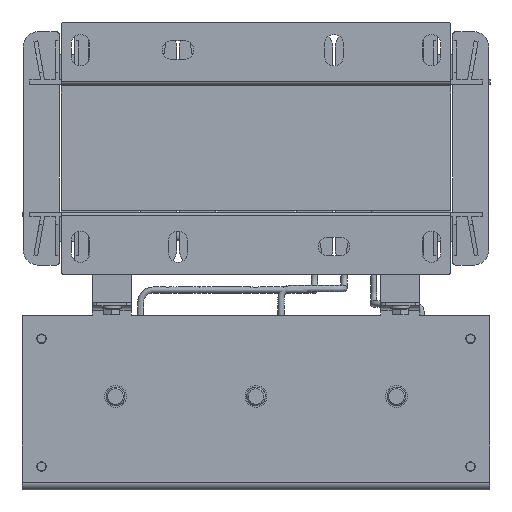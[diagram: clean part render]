
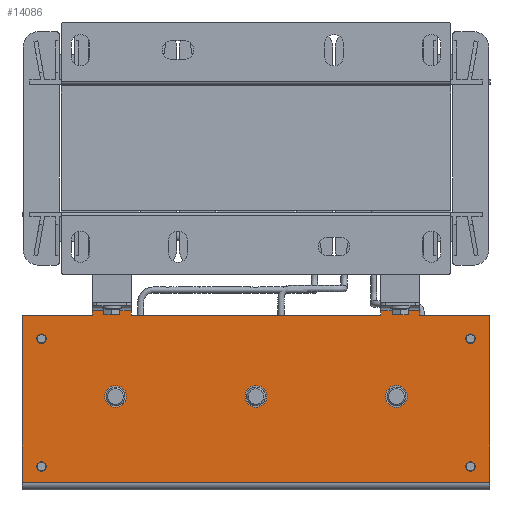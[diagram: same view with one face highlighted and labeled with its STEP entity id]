
A CAD part, front view. The second image highlights one B-rep face of the part: STEP entity #14086.
In plain terms, the highlighted planar face has unit normal (0, -1, 0).
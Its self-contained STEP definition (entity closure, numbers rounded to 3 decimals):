
#14086=ADVANCED_FACE('',(#28753,#28755,#28757,#28759,#28761,#28763,#28765,#28767),
#28769,.F.);
#28753=FACE_BOUND('',#28754,.T.);
#28754=EDGE_LOOP('',(#47410,#47411,#47412,#47413,#47414,#47415,#47416,#47417,#47418,
#47419,#47420,#47421));
#28755=FACE_BOUND('',#28756,.T.);
#28756=EDGE_LOOP('',(#47422));
#28757=FACE_BOUND('',#28758,.T.);
#28758=EDGE_LOOP('',(#47423));
#28759=FACE_BOUND('',#28760,.T.);
#28760=EDGE_LOOP('',(#47424));
#28761=FACE_BOUND('',#28762,.T.);
#28762=EDGE_LOOP('',(#47425));
#28763=FACE_BOUND('',#28764,.T.);
#28764=EDGE_LOOP('',(#47426));
#28765=FACE_BOUND('',#28766,.T.);
#28766=EDGE_LOOP('',(#47427));
#28767=FACE_BOUND('',#28768,.T.);
#28768=EDGE_LOOP('',(#47428));
#28769=PLANE('',#28770);
#28770=AXIS2_PLACEMENT_3D('',#28771,#28772,#28773);
#28771=CARTESIAN_POINT('',(-116.,-40.,150.));
#28772=DIRECTION('',(0.,1.,0.));
#28773=DIRECTION('',(0.,0.,1.));
#47410=ORIENTED_EDGE('',*,*,#54160,.T.);
#47411=ORIENTED_EDGE('',*,*,#54161,.T.);
#47412=ORIENTED_EDGE('',*,*,#54162,.T.);
#47413=ORIENTED_EDGE('',*,*,#54163,.F.);
#47414=ORIENTED_EDGE('',*,*,#54164,.T.);
#47415=ORIENTED_EDGE('',*,*,#54165,.T.);
#47416=ORIENTED_EDGE('',*,*,#54166,.T.);
#47417=ORIENTED_EDGE('',*,*,#54167,.F.);
#47418=ORIENTED_EDGE('',*,*,#54087,.T.);
#47419=ORIENTED_EDGE('',*,*,#54168,.T.);
#47420=ORIENTED_EDGE('',*,*,#54073,.F.);
#47421=ORIENTED_EDGE('',*,*,#54169,.F.);
#47422=ORIENTED_EDGE('',*,*,#54012,.T.);
#47423=ORIENTED_EDGE('',*,*,#54014,.T.);
#47424=ORIENTED_EDGE('',*,*,#54016,.T.);
#47425=ORIENTED_EDGE('',*,*,#54018,.T.);
#47426=ORIENTED_EDGE('',*,*,#54020,.T.);
#47427=ORIENTED_EDGE('',*,*,#54022,.T.);
#47428=ORIENTED_EDGE('',*,*,#54024,.T.);
#54012=EDGE_CURVE('',#60122,#60122,#60123,.T.);
#54014=EDGE_CURVE('',#60126,#60126,#60127,.T.);
#54016=EDGE_CURVE('',#60130,#60130,#60131,.T.);
#54018=EDGE_CURVE('',#60134,#60134,#60135,.T.);
#54020=EDGE_CURVE('',#60138,#60138,#60139,.T.);
#54022=EDGE_CURVE('',#60142,#60142,#60143,.T.);
#54024=EDGE_CURVE('',#60146,#60146,#60147,.T.);
#54073=EDGE_CURVE('',#60238,#60239,#60240,.T.);
#54087=EDGE_CURVE('',#60267,#60265,#60268,.T.);
#54160=EDGE_CURVE('',#60395,#60396,#60397,.T.);
#54161=EDGE_CURVE('',#60396,#60398,#60399,.T.);
#54162=EDGE_CURVE('',#60398,#60400,#60401,.T.);
#54163=EDGE_CURVE('',#60402,#60400,#60403,.T.);
#54164=EDGE_CURVE('',#60402,#60404,#60405,.T.);
#54165=EDGE_CURVE('',#60404,#60406,#60407,.T.);
#54166=EDGE_CURVE('',#60406,#60408,#60409,.T.);
#54167=EDGE_CURVE('',#60267,#60408,#60410,.T.);
#54168=EDGE_CURVE('',#60265,#60239,#60411,.T.);
#54169=EDGE_CURVE('',#60395,#60238,#60412,.T.);
#60122=VERTEX_POINT('',#73854);
#60123=CIRCLE('',#73855,3.);
#60126=VERTEX_POINT('',#73864);
#60127=CIRCLE('',#73865,3.);
#60130=VERTEX_POINT('',#73874);
#60131=CIRCLE('',#73875,3.);
#60134=VERTEX_POINT('',#73884);
#60135=CIRCLE('',#73885,3.);
#60138=VERTEX_POINT('',#73894);
#60139=CIRCLE('',#73895,7.);
#60142=VERTEX_POINT('',#73904);
#60143=CIRCLE('',#73905,7.);
#60146=VERTEX_POINT('',#73914);
#60147=CIRCLE('',#73915,7.);
#60238=VERTEX_POINT('',#74125);
#60239=VERTEX_POINT('',#74126);
#60240=LINE('',#74127,#74128);
#60265=VERTEX_POINT('',#74182);
#60267=VERTEX_POINT('',#74187);
#60268=LINE('',#74188,#74189);
#60395=VERTEX_POINT('',#74477);
#60396=VERTEX_POINT('',#74478);
#60397=LINE('',#74479,#74480);
#60398=VERTEX_POINT('',#74482);
#60399=LINE('',#74483,#74484);
#60400=VERTEX_POINT('',#74486);
#60401=LINE('',#74487,#74488);
#60402=VERTEX_POINT('',#74490);
#60403=LINE('',#74491,#74492);
#60404=VERTEX_POINT('',#74494);
#60405=LINE('',#74495,#74496);
#60406=VERTEX_POINT('',#74498);
#60407=LINE('',#74499,#74500);
#60408=VERTEX_POINT('',#74502);
#60409=LINE('',#74503,#74504);
#60410=LINE('',#74506,#74507);
#60411=LINE('',#74509,#74510);
#60412=LINE('',#74512,#74513);
#73854=CARTESIAN_POINT('',(-16.,-40.,-137.5));
#73855=AXIS2_PLACEMENT_3D('',#73856,#73857,#73858);
#73856=CARTESIAN_POINT('',(-13.,-40.,-137.5));
#73857=DIRECTION('',(0.,1.,0.));
#73858=DIRECTION('',(1.,0.,0.));
#73864=CARTESIAN_POINT('',(-98.,-40.,137.5));
#73865=AXIS2_PLACEMENT_3D('',#73866,#73867,#73868);
#73866=CARTESIAN_POINT('',(-95.,-40.,137.5));
#73867=DIRECTION('',(0.,1.,0.));
#73868=DIRECTION('',(1.,0.,0.));
#73874=CARTESIAN_POINT('',(-16.,-40.,137.5));
#73875=AXIS2_PLACEMENT_3D('',#73876,#73877,#73878);
#73876=CARTESIAN_POINT('',(-13.,-40.,137.5));
#73877=DIRECTION('',(0.,1.,0.));
#73878=DIRECTION('',(1.,0.,0.));
#73884=CARTESIAN_POINT('',(-98.,-40.,-137.5));
#73885=AXIS2_PLACEMENT_3D('',#73886,#73887,#73888);
#73886=CARTESIAN_POINT('',(-95.,-40.,-137.5));
#73887=DIRECTION('',(0.,1.,0.));
#73888=DIRECTION('',(1.,0.,0.));
#73894=CARTESIAN_POINT('',(-58.,-40.,97.));
#73895=AXIS2_PLACEMENT_3D('',#73896,#73897,#73898);
#73896=CARTESIAN_POINT('',(-58.,-40.,90.));
#73897=DIRECTION('',(0.,1.,0.));
#73898=DIRECTION('',(0.,0.,-1.));
#73904=CARTESIAN_POINT('',(-58.,-40.,-83.));
#73905=AXIS2_PLACEMENT_3D('',#73906,#73907,#73908);
#73906=CARTESIAN_POINT('',(-58.,-40.,-90.));
#73907=DIRECTION('',(0.,1.,0.));
#73908=DIRECTION('',(0.,0.,-1.));
#73914=CARTESIAN_POINT('',(-58.,-40.,7.));
#73915=AXIS2_PLACEMENT_3D('',#73916,#73917,#73918);
#73916=CARTESIAN_POINT('',(-58.,-40.,0.));
#73917=DIRECTION('',(0.,1.,0.));
#73918=DIRECTION('',(0.,0.,-1.));
#74125=CARTESIAN_POINT('',(-110.,-40.,150.));
#74126=CARTESIAN_POINT('',(-3.,-40.,150.));
#74127=CARTESIAN_POINT('',(-110.,-40.,150.));
#74128=VECTOR('',#74129,1.);
#74129=DIRECTION('',(1.,0.,0.));
#74182=CARTESIAN_POINT('',(-3.,-40.,-150.));
#74187=CARTESIAN_POINT('',(-110.,-40.,-150.));
#74188=CARTESIAN_POINT('',(-110.,-40.,-150.));
#74189=VECTOR('',#74190,1.);
#74190=DIRECTION('',(1.,0.,0.));
#74477=CARTESIAN_POINT('',(-110.,-40.,105.));
#74478=CARTESIAN_POINT('',(-113.,-40.,105.));
#74479=CARTESIAN_POINT('',(-110.,-40.,105.));
#74480=VECTOR('',#74481,1.);
#74481=DIRECTION('',(-1.,0.,0.));
#74482=CARTESIAN_POINT('',(-113.,-40.,80.));
#74483=CARTESIAN_POINT('',(-113.,-40.,105.));
#74484=VECTOR('',#74485,1.);
#74485=DIRECTION('',(0.,0.,-1.));
#74486=CARTESIAN_POINT('',(-110.,-40.,80.));
#74487=CARTESIAN_POINT('',(-113.,-40.,80.));
#74488=VECTOR('',#74489,1.);
#74489=DIRECTION('',(1.,0.,0.));
#74490=CARTESIAN_POINT('',(-110.,-40.,-80.));
#74491=CARTESIAN_POINT('',(-110.,-40.,-80.));
#74492=VECTOR('',#74493,1.);
#74493=DIRECTION('',(0.,0.,1.));
#74494=CARTESIAN_POINT('',(-113.,-40.,-80.));
#74495=CARTESIAN_POINT('',(-110.,-40.,-80.));
#74496=VECTOR('',#74497,1.);
#74497=DIRECTION('',(-1.,0.,0.));
#74498=CARTESIAN_POINT('',(-113.,-40.,-105.));
#74499=CARTESIAN_POINT('',(-113.,-40.,-80.));
#74500=VECTOR('',#74501,1.);
#74501=DIRECTION('',(0.,0.,-1.));
#74502=CARTESIAN_POINT('',(-110.,-40.,-105.));
#74503=CARTESIAN_POINT('',(-113.,-40.,-105.));
#74504=VECTOR('',#74505,1.);
#74505=DIRECTION('',(1.,0.,0.));
#74506=CARTESIAN_POINT('',(-110.,-40.,-150.));
#74507=VECTOR('',#74508,1.);
#74508=DIRECTION('',(0.,0.,1.));
#74509=CARTESIAN_POINT('',(-3.,-40.,-150.));
#74510=VECTOR('',#74511,1.);
#74511=DIRECTION('',(0.,0.,1.));
#74512=CARTESIAN_POINT('',(-110.,-40.,105.));
#74513=VECTOR('',#74514,1.);
#74514=DIRECTION('',(0.,0.,1.));
